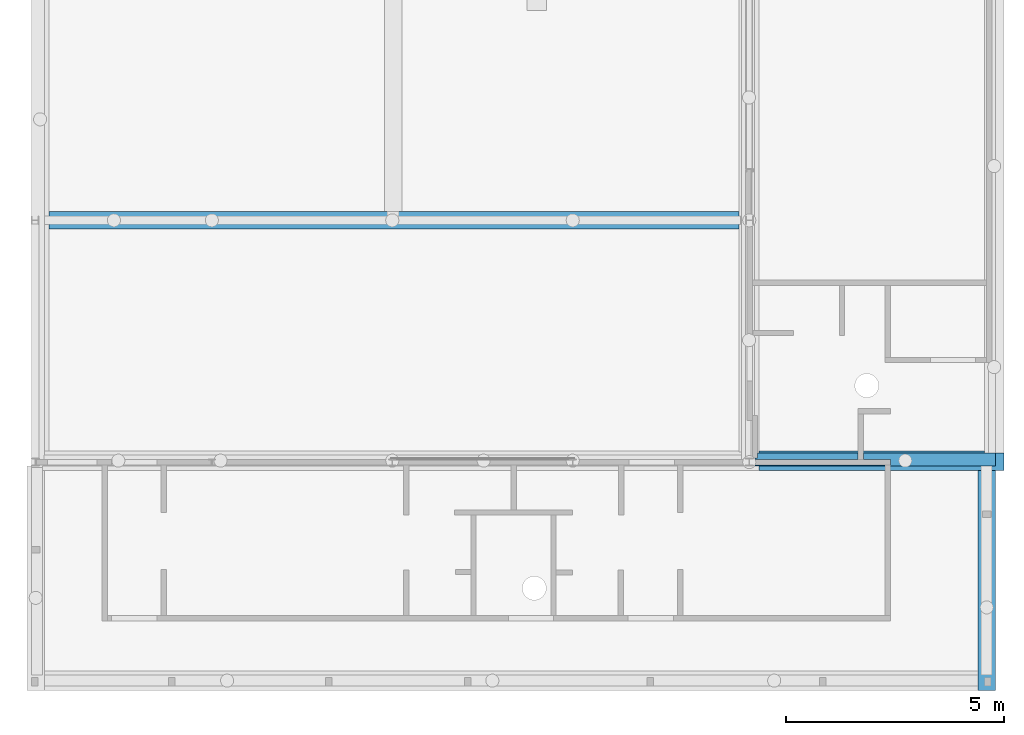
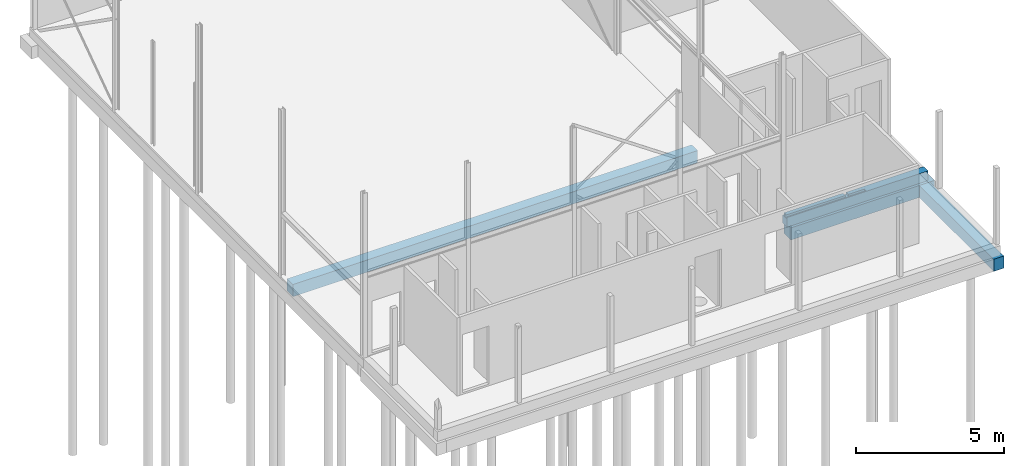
# One storey, part 13 of 17: 4 footings.
"""IFC2X3 building model written with IfcOpenShell, lengths in millimetres."""

from ifc_helpers import new_model, entity, si_unit, converted_unit, derived_unit, direction, frame, origin, place, context, subcontext, project, spatial, faceted_brep, source, transform, mapped, material, type_object, type_shapes, element, save


model = new_model("IFC2X3")

# Units and contexts
model_context = context("Model", 3, precision=0.01, world=origin(), true_north=direction((6.123031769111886e-17, 1.0)))
plan_context = context("Plan", 3, precision=0.01, world=origin(), true_north=direction((6.123031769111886e-17, 1.0)))
body_context = subcontext(model_context, "Body", "Model", "MODEL_VIEW")
ifc_project = project(units=[si_unit("LENGTHUNIT", "METRE", prefix="MILLI"), si_unit("AREAUNIT", "SQUARE_METRE"), si_unit("VOLUMEUNIT", "CUBIC_METRE"), converted_unit("PLANEANGLEUNIT", "DEGREE", entity("IfcPlaneAngleMeasure", 0.017453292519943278), si_unit("PLANEANGLEUNIT", "RADIAN"), dimensions=[0, 0, 0, 0, 0, 0, 0]), si_unit("MASSUNIT", "GRAM", prefix="KILO"), derived_unit("MASSDENSITYUNIT", [(si_unit("MASSUNIT", "GRAM", prefix="KILO"), 1), (si_unit("LENGTHUNIT", "METRE"), -3)]), derived_unit("IONCONCENTRATIONUNIT", [(si_unit("MASSUNIT", "GRAM", prefix="KILO"), 1), (si_unit("LENGTHUNIT", "METRE"), -3)]), derived_unit("MOMENTOFINERTIAUNIT", [(si_unit("LENGTHUNIT", "METRE"), 4)]), si_unit("TIMEUNIT", "SECOND"), si_unit("FREQUENCYUNIT", "HERTZ"), si_unit("THERMODYNAMICTEMPERATUREUNIT", "DEGREE_CELSIUS"), derived_unit("THERMALTRANSMITTANCEUNIT", [(si_unit("MASSUNIT", "GRAM", prefix="KILO"), 1), (si_unit("THERMODYNAMICTEMPERATUREUNIT", "KELVIN"), -1), (si_unit("TIMEUNIT", "SECOND"), -3)]), derived_unit("THERMALCONDUCTANCEUNIT", [(si_unit("MASSUNIT", "GRAM", prefix="KILO"), 1), (si_unit("THERMODYNAMICTEMPERATUREUNIT", "KELVIN"), -1), (si_unit("TIMEUNIT", "SECOND"), -3), (si_unit("LENGTHUNIT", "METRE"), 1)]), derived_unit("VOLUMETRICFLOWRATEUNIT", [(si_unit("LENGTHUNIT", "METRE", prefix="DECI"), 3), (si_unit("TIMEUNIT", "SECOND"), -1)]), derived_unit("MASSFLOWRATEUNIT", [(si_unit("MASSUNIT", "GRAM", prefix="KILO"), 1), (si_unit("TIMEUNIT", "SECOND"), -1)]), derived_unit("ROTATIONALFREQUENCYUNIT", [(si_unit("TIMEUNIT", "SECOND"), -1)]), si_unit("ELECTRICCURRENTUNIT", "AMPERE"), si_unit("ELECTRICVOLTAGEUNIT", "VOLT"), si_unit("POWERUNIT", "WATT"), si_unit("FORCEUNIT", "NEWTON", prefix="KILO"), si_unit("ILLUMINANCEUNIT", "LUX"), si_unit("LUMINOUSFLUXUNIT", "LUMEN"), si_unit("LUMINOUSINTENSITYUNIT", "CANDELA"), si_unit("ENERGYUNIT", "JOULE"), derived_unit("USERDEFINED", [(si_unit("MASSUNIT", "GRAM", prefix="KILO"), -1), (si_unit("LENGTHUNIT", "METRE"), -2), (si_unit("TIMEUNIT", "SECOND"), 3), (si_unit("LUMINOUSFLUXUNIT", "LUMEN"), 1)]), derived_unit("USERDEFINED", [(si_unit("MASSUNIT", "GRAM", prefix="KILO"), 1), (si_unit("TIMEUNIT", "SECOND"), -3), (si_unit("LENGTHUNIT", "METRE"), 3), (si_unit("ELECTRICCURRENTUNIT", "AMPERE"), -2)]), derived_unit("SOUNDPOWERUNIT", [(si_unit("MASSUNIT", "GRAM", prefix="KILO"), 1), (si_unit("TIMEUNIT", "SECOND"), -3), (si_unit("LENGTHUNIT", "METRE"), 2)]), derived_unit("SOUNDPRESSUREUNIT", [(si_unit("MASSUNIT", "GRAM", prefix="KILO"), 1), (si_unit("LENGTHUNIT", "METRE"), -1), (si_unit("TIMEUNIT", "SECOND"), -2)]), derived_unit("LINEARVELOCITYUNIT", [(si_unit("LENGTHUNIT", "METRE"), 1), (si_unit("TIMEUNIT", "SECOND"), -1)]), si_unit("PRESSUREUNIT", "PASCAL"), derived_unit("USERDEFINED", [(si_unit("MASSUNIT", "GRAM", prefix="KILO"), 1), (si_unit("LENGTHUNIT", "METRE"), -2), (si_unit("TIMEUNIT", "SECOND"), -2)]), derived_unit("LINEARFORCEUNIT", [(si_unit("MASSUNIT", "GRAM", prefix="KILO"), 1), (si_unit("TIMEUNIT", "SECOND"), -2)]), derived_unit("PLANARFORCEUNIT", [(si_unit("MASSUNIT", "GRAM", prefix="KILO"), 1), (si_unit("LENGTHUNIT", "METRE"), -1), (si_unit("TIMEUNIT", "SECOND"), -2)]), derived_unit("SPECIFICHEATCAPACITYUNIT", [(si_unit("THERMODYNAMICTEMPERATUREUNIT", "KELVIN"), -1), (si_unit("LENGTHUNIT", "METRE"), 2), (si_unit("TIMEUNIT", "SECOND"), -2)]), derived_unit("HEATFLUXDENSITYUNIT", [(si_unit("MASSUNIT", "GRAM", prefix="KILO"), 1), (si_unit("TIMEUNIT", "SECOND"), -3)]), derived_unit("HEATINGVALUEUNIT", [(si_unit("LENGTHUNIT", "METRE"), 2), (si_unit("TIMEUNIT", "SECOND"), -2)]), derived_unit("VAPORPERMEABILITYUNIT", [(si_unit("LENGTHUNIT", "METRE"), -1), (si_unit("TIMEUNIT", "SECOND"), 1)]), derived_unit("DYNAMICVISCOSITYUNIT", [(si_unit("MASSUNIT", "GRAM", prefix="KILO"), 1), (si_unit("TIMEUNIT", "SECOND"), -1), (si_unit("LENGTHUNIT", "METRE"), -1)]), derived_unit("THERMALEXPANSIONCOEFFICIENTUNIT", [(si_unit("THERMODYNAMICTEMPERATUREUNIT", "KELVIN"), -1)]), derived_unit("MODULUSOFELASTICITYUNIT", [(si_unit("MASSUNIT", "GRAM", prefix="KILO"), 1), (si_unit("LENGTHUNIT", "METRE"), -1), (si_unit("TIMEUNIT", "SECOND"), -2)]), derived_unit("ISOTHERMALMOISTURECAPACITYUNIT", [(si_unit("MASSUNIT", "GRAM", prefix="KILO"), -1), (si_unit("LENGTHUNIT", "METRE"), 3)]), derived_unit("MOISTUREDIFFUSIVITYUNIT", [(si_unit("TIMEUNIT", "SECOND"), -1), (si_unit("LENGTHUNIT", "METRE"), 2)]), derived_unit("MASSPERLENGTHUNIT", [(si_unit("MASSUNIT", "GRAM", prefix="KILO"), 1), (si_unit("LENGTHUNIT", "METRE"), -1)]), derived_unit("THERMALRESISTANCEUNIT", [(si_unit("MASSUNIT", "GRAM", prefix="KILO"), -1), (si_unit("TIMEUNIT", "SECOND"), 3), (si_unit("THERMODYNAMICTEMPERATUREUNIT", "KELVIN"), 1)]), derived_unit("ACCELERATIONUNIT", [(si_unit("LENGTHUNIT", "METRE"), 1), (si_unit("TIMEUNIT", "SECOND"), -2)]), derived_unit("ANGULARVELOCITYUNIT", [(si_unit("TIMEUNIT", "SECOND"), -1), (si_unit("PLANEANGLEUNIT", "RADIAN"), 1)]), derived_unit("LINEARSTIFFNESSUNIT", [(si_unit("MASSUNIT", "GRAM", prefix="KILO"), 1), (si_unit("TIMEUNIT", "SECOND"), -2)]), derived_unit("WARPINGCONSTANTUNIT", [(si_unit("LENGTHUNIT", "METRE"), 6)]), derived_unit("LINEARMOMENTUNIT", [(si_unit("MASSUNIT", "GRAM", prefix="KILO"), 1), (si_unit("LENGTHUNIT", "METRE"), 1), (si_unit("TIMEUNIT", "SECOND"), -2)]), derived_unit("TORQUEUNIT", [(si_unit("MASSUNIT", "GRAM", prefix="KILO"), 1), (si_unit("LENGTHUNIT", "METRE"), 2), (si_unit("TIMEUNIT", "SECOND"), -2)])], contexts=[model_context, plan_context])

# Site, building, storey
site_placement = place(None, origin())
site = spatial("IfcSite", under=ifc_project, at=site_placement, Name="Default", CompositionType="ELEMENT")
building_placement = place(site_placement, origin())
building = spatial("IfcBuilding", under=site, at=building_placement, CompositionType="ELEMENT")
storey_placement = place(building_placement, origin())
storey = spatial("IfcBuildingStorey", under=building, at=storey_placement, Name="00 begane grond", CompositionType="ELEMENT", Elevation=0.0)

# Footings
ifc_material = material(Name="ihwg beton")
type_product_1 = type_object("IfcTypeProduct", Name="16_SF_LIB_funderingsbalk_dw:400x500 (ihwg)", material=ifc_material)
shared_shape_1 = source(origin(), body_context, "Body", "Brep", [
    faceted_brep([(400.0, 0.0, -500.0), (400.0, 0.0, 0.0), (0.0, 0.0, 0.0), (0.0, 0.0, -500.0), (0.0, 5035.00000000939, -500.0), (0.0, 5035.00000000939, 0.0), (400.0, 5035.000000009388, 0.0), (400.0, 5035.000000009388, -500.0), (0.0, 450.00000001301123, 0.0), (0.0, 450.00000001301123, -500.0), (55.11112605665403, 1861.177143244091, -500.0), (70.09618943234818, 1825.0000000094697, -500.0), (50.0, 1900.0000000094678, -500.0), (93.93398282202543, 1793.933982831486, -500.0), (125.0, 1770.0961894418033, -500.0), (161.1771432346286, 1755.1111260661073, -500.0), (200.0, 1750.0000000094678, -500.0), (238.82285676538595, 1755.1111260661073, -500.0), (275.0, 1770.0961894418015, -500.0), (306.0660171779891, 1793.9339828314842, -500.0), (329.9038105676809, 1825.0000000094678, -500.0), (344.8888739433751, 1861.1771432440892, -500.0), (350.0, 1900.0000000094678, -500.0), (344.8888739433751, 1938.8228567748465, -500.0), (329.9038105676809, 1975.0000000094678, -500.0), (306.0660171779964, 2006.0660171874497, -500.0), (275.0, 2029.9038105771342, -500.0), (238.82285676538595, 2044.8888739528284, -500.0), (200.0, 2050.000000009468, -500.0), (161.17714323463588, 2044.8888739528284, -500.0), (125.0, 2029.9038105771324, -500.0), (93.93398282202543, 2006.0660171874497, -500.0), (70.09618943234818, 1975.0000000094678, -500.0), (55.11112605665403, 1938.8228567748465, -500.0), (275.0, 1770.0961894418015, -480.0), (238.82285676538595, 1755.1111260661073, -480.0), (200.0, 1750.0000000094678, -480.0), (161.17714323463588, 1755.1111260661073, -480.0), (125.0, 1770.0961894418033, -480.0), (93.93398282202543, 1793.933982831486, -480.0), (70.09618943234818, 1825.0000000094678, -480.0), (55.11112605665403, 1861.177143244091, -480.0), (50.0, 1900.0000000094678, -480.0), (55.11112605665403, 1938.8228567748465, -480.0), (70.09618943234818, 1975.0000000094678, -480.0), (93.93398282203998, 2006.0660171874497, -480.0), (125.0, 2029.9038105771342, -480.0), (161.17714323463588, 2044.8888739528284, -480.0), (200.0, 2050.000000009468, -480.0), (238.82285676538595, 2044.8888739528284, -480.0), (275.0, 2029.9038105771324, -480.0), (306.0660171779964, 2006.0660171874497, -480.0), (329.9038105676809, 1975.0000000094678, -480.0), (344.8888739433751, 1938.8228567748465, -480.0), (350.0, 1900.0000000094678, -480.0), (344.8888739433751, 1861.1771432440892, -480.0), (329.9038105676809, 1825.0000000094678, -480.0), (306.0660171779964, 1793.9339828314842, -480.0)], [[[0, 1, 2, 3]], [[4, 5, 6, 7]], [[8, 2, 1, 6, 5]], [[9, 3, 2, 8, 5, 4]], [[10, 11, 9]], [[12, 10, 9]], [[9, 11, 13]], [[9, 13, 14]], [[9, 14, 15]], [[9, 15, 16]], [[17, 9, 16]], [[18, 9, 17]], [[9, 18, 19]], [[0, 9, 19]], [[20, 0, 19]], [[0, 20, 21]], [[21, 22, 0]], [[7, 0, 22]], [[7, 22, 23]], [[23, 24, 7]], [[25, 7, 24]], [[7, 25, 26]], [[27, 7, 26]], [[7, 27, 28]], [[4, 7, 28]], [[28, 29, 4]], [[4, 29, 30]], [[4, 30, 31]], [[4, 31, 32]], [[32, 33, 4]], [[33, 12, 4]], [[9, 4, 12]], [[0, 3, 9]], [[1, 0, 7, 6]], [[34, 35, 36, 37, 38, 39, 40, 41, 42, 43, 44, 45, 46, 47, 48, 49, 50, 51, 52, 53, 54, 55, 56, 57]], [[12, 42, 41, 10]], [[10, 41, 40, 11]], [[14, 13, 39, 38]], [[13, 11, 40, 39]], [[37, 15, 14, 38]], [[15, 37, 36, 16]], [[18, 17, 35, 34]], [[18, 34, 57, 19]], [[21, 20, 56, 55]], [[56, 20, 19, 57]], [[54, 22, 21, 55]], [[16, 36, 35, 17]], [[22, 54, 53, 23]], [[23, 53, 52, 24]], [[26, 25, 51, 50]], [[24, 52, 51, 25]], [[26, 50, 49, 27]], [[27, 49, 48, 28]], [[29, 28, 48, 47]], [[29, 47, 46, 30]], [[32, 31, 45, 44]], [[30, 46, 45, 31]], [[32, 44, 43, 33]], [[12, 33, 43, 42]]]),
])
type_shapes(type_product_1, [shared_shape_1])
footing_1_placement = place(storey_placement, frame((55731.192937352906, 11112.670340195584, -470.0)))
element("IfcFooting", 1, at=footing_1_placement, inside=storey, type_object=type_product_1, material=ifc_material, Name="16_SF_LIB_funderingsbalk_dw:400x500 (ihwg)", ObjectType="16_SF_LIB_funderingsbalk_dw:400x500 (ihwg)", context=body_context, shape_type="MappedRepresentation", body=[
    mapped(shared_shape_1, transform((0.0, 0.0, 0.0), scale=1.0)),
])
type_product_2 = type_object("IfcTypeProduct", Name="16_SF_LIB_funderingsbalk_dw:400x500 (ihwg)", material=ifc_material)
shared_shape_2 = source(origin(), body_context, "Body", "Brep", [
    faceted_brep([(0.0, 0.0, -500.0), (0.0, 0.0, 0.0), (0.0, 400.0, 0.0), (0.0, 400.0, -500.0), (8078.955664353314, 400.0, 0.0), (7678.9556643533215, 400.0, 0.0), (15800.0, 0.0, 0.0), (15800.0, 400.0, 0.0), (7678.9556643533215, 400.0, -500.0), (15800.0, 400.0, -500.0), (8078.955664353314, 400.0, -500.0), (1490.0, 350.0, -500.0), (1451.177143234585, 344.8888739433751, -500.0), (3729.999999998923, 350.0, -500.0), (3691.1771432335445, 344.8888739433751, -500.0), (1528.8228567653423, 344.8888739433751, -500.0), (1415.0, 329.9038105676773, -500.0), (1383.9339828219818, 306.0660171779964, -500.0), (1360.0961894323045, 275.0, -500.0), (1345.111126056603, 238.82285676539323, -500.0), (1340.0, 200.0, -500.0), (1345.111126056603, 161.17714323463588, -500.0), (1360.0961894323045, 125.0, -500.0), (1383.9339828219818, 93.9339828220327, -500.0), (1415.0, 70.09618943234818, -500.0), (1451.177143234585, 55.11112605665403, -500.0), (1490.0, 50.0, -500.0), (3729.999999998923, 50.0, -500.0), (3691.1771432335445, 55.11112605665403, -500.0), (1528.8228567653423, 55.11112605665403, -500.0), (3654.999999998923, 70.09618943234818, -500.0), (1565.0, 70.09618943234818, -500.0), (3623.9339828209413, 93.9339828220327, -500.0), (1596.0660171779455, 93.9339828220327, -500.0), (3600.096189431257, 125.0, -500.0), (1619.90381056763, 125.0, -500.0), (3585.1111260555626, 161.17714323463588, -500.0), (1634.8888739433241, 161.17714323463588, -500.0), (3579.999999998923, 200.0, -500.0), (1640.0, 200.0, -500.0), (1634.8888739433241, 238.82285676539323, -500.0), (3585.1111260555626, 238.82285676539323, -500.0), (1619.90381056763, 275.0, -500.0), (3600.096189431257, 275.0, -500.0), (1596.0660171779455, 306.0660171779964, -500.0), (3623.9339828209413, 306.0660171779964, -500.0), (1565.0, 329.9038105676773, -500.0), (3654.999999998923, 329.9038105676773, -500.0), (7860.00000000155, 50.0, -500.0), (7821.177143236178, 55.11112605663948, -500.0), (3768.822856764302, 55.11112605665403, -500.0), (7785.00000000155, 70.09618943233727, -500.0), (3804.999999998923, 70.09618943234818, -500.0), (7753.933982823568, 93.93398282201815, -500.0), (3836.066017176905, 93.9339828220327, -500.0), (7730.096189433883, 125.0, -500.0), (3859.9038105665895, 125.0, -500.0), (7715.111126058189, 161.17714323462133, -500.0), (3874.8888739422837, 161.17714323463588, -500.0), (7710.00000000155, 200.0, -500.0), (3879.999999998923, 200.0, -500.0), (3874.8888739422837, 238.82285676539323, -500.0), (3859.9038105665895, 275.0, -500.0), (3836.066017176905, 306.0660171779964, -500.0), (3804.999999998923, 329.9038105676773, -500.0), (3768.822856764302, 344.8888739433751, -500.0), (7715.111126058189, 238.82285676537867, -500.0), (7730.096189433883, 275.0, -500.0), (7753.933982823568, 306.06601717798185, -500.0), (7785.00000000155, 329.90381056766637, -500.0), (7821.177143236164, 344.8888739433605, -500.0), (7860.00000000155, 350.0, -500.0), (7898.822856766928, 344.8888739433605, -500.0), (7935.00000000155, 329.90381056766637, -500.0), (7966.066017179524, 306.06601717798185, -500.0), (7989.903810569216, 275.0, -500.0), (8004.88887394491, 238.82285676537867, -500.0), (8010.00000000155, 200.0, -500.0), (8004.88887394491, 161.17714323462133, -500.0), (11845.11112605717, 161.1771432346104, -500.0), (11840.0, 200.0, -500.0), (11845.11112605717, 238.82285676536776, -500.0), (11860.096189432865, 275.0, -500.0), (11883.93398282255, 306.06601717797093, -500.0), (11915.0, 329.9038105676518, -500.0), (11951.177143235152, 344.8888739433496, -500.0), (11990.0, 350.0, -500.0), (12028.82285676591, 344.8888739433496, -500.0), (12065.0, 329.9038105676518, -500.0), (12096.066017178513, 306.06601717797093, -500.0), (12119.903810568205, 275.0, -500.0), (12134.888873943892, 238.82285676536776, -500.0), (12140.0, 200.0, -500.0), (15800.0, 0.0, -500.0), (12134.888873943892, 161.1771432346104, -500.0), (12119.903810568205, 125.0, -500.0), (11990.0, 50.0, -500.0), (12028.82285676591, 55.111126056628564, -500.0), (12065.0, 70.09618943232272, -500.0), (12096.06601717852, 93.93398282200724, -500.0), (7989.903810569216, 125.0, -500.0), (11860.096189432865, 125.0, -500.0), (7966.066017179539, 93.93398282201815, -500.0), (11883.93398282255, 93.93398282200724, -500.0), (7935.00000000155, 70.09618943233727, -500.0), (11915.0, 70.09618943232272, -500.0), (7898.822856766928, 55.11112605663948, -500.0), (11951.17714323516, 55.111126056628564, -500.0), (3804.999999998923, 70.09618943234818, -480.0), (3768.822856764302, 55.11112605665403, -480.0), (3729.999999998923, 50.0, -480.0), (3691.1771432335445, 55.11112605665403, -480.0), (3654.999999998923, 70.09618943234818, -480.0), (3623.9339828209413, 93.9339828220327, -480.0), (3600.096189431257, 125.0, -480.0), (3585.1111260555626, 161.17714323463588, -480.0), (3579.999999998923, 200.0, -480.0), (3585.1111260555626, 238.82285676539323, -480.0), (3600.096189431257, 275.0, -480.0), (3623.9339828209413, 306.0660171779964, -480.0), (3654.999999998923, 329.9038105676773, -480.0), (3691.1771432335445, 344.8888739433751, -480.0), (3729.999999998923, 350.0, -480.0), (3768.822856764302, 344.8888739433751, -480.0), (3804.999999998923, 329.9038105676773, -480.0), (3836.066017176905, 306.0660171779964, -480.0), (3859.9038105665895, 275.0, -480.0), (3874.8888739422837, 238.82285676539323, -480.0), (3879.999999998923, 200.0, -480.0), (3874.8888739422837, 161.17714323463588, -480.0), (3859.9038105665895, 125.0, -480.0), (3836.066017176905, 93.9339828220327, -480.0), (7935.00000000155, 70.09618943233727, -480.0), (7898.822856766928, 55.11112605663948, -480.0), (7860.00000000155, 50.0, -480.0), (7821.177143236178, 55.11112605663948, -480.0), (7785.00000000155, 70.09618943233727, -480.0), (7753.933982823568, 93.93398282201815, -480.0), (7730.096189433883, 125.0, -480.0), (7715.111126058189, 161.17714323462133, -480.0), (7710.00000000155, 200.0, -480.0), (7715.111126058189, 238.82285676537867, -480.0), (7730.096189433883, 275.0, -480.0), (7753.933982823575, 306.06601717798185, -480.0), (7785.00000000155, 329.90381056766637, -480.0), (7821.177143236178, 344.8888739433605, -480.0), (7860.00000000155, 350.0, -480.0), (7898.822856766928, 344.8888739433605, -480.0), (7935.00000000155, 329.90381056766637, -480.0), (7966.066017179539, 306.06601717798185, -480.0), (7989.903810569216, 275.0, -480.0), (8004.88887394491, 238.82285676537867, -480.0), (8010.00000000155, 200.0, -480.0), (8004.88887394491, 161.17714323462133, -480.0), (7989.903810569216, 125.0, -480.0), (7966.066017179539, 93.93398282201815, -480.0), (12065.0, 70.09618943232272, -480.0), (12028.82285676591, 55.111126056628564, -480.0), (11990.0, 50.0, -480.0), (11951.17714323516, 55.111126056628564, -480.0), (11915.0, 70.09618943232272, -480.0), (11883.93398282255, 93.93398282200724, -480.0), (11860.096189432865, 125.0, -480.0), (11845.11112605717, 161.1771432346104, -480.0), (11840.0, 200.0, -480.0), (11845.11112605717, 238.82285676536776, -480.0), (11860.096189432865, 275.0, -480.0), (11883.933982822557, 306.06601717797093, -480.0), (11915.0, 329.9038105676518, -480.0), (11951.17714323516, 344.8888739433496, -480.0), (11990.0, 350.0, -480.0), (12028.82285676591, 344.8888739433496, -480.0), (12065.0, 329.9038105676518, -480.0), (12096.06601717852, 306.06601717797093, -480.0), (12119.903810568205, 275.0, -480.0), (12134.888873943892, 238.82285676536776, -480.0), (12140.0, 200.0, -480.0), (12134.888873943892, 161.1771432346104, -480.0), (12119.903810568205, 125.0, -480.0), (12096.06601717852, 93.93398282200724, -480.0), (1565.0, 70.09618943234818, -480.0), (1528.8228567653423, 55.11112605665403, -480.0), (1490.0, 50.0, -480.0), (1451.177143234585, 55.11112605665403, -480.0), (1415.0, 70.09618943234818, -480.0), (1383.9339828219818, 93.9339828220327, -480.0), (1360.0961894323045, 125.0, -480.0), (1345.111126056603, 161.17714323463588, -480.0), (1340.0, 200.0, -480.0), (1345.111126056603, 238.82285676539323, -480.0), (1360.0961894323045, 275.0, -480.0), (1383.9339828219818, 306.0660171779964, -480.0), (1415.0, 329.9038105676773, -480.0), (1451.177143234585, 344.8888739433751, -480.0), (1490.0, 350.0, -480.0), (1528.8228567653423, 344.8888739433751, -480.0), (1565.0, 329.9038105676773, -480.0), (1596.0660171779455, 306.0660171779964, -480.0), (1619.90381056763, 275.0, -480.0), (1634.8888739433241, 238.82285676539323, -480.0), (1640.0, 200.0, -480.0), (1634.8888739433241, 161.17714323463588, -480.0), (1619.90381056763, 125.0, -480.0), (1596.0660171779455, 93.9339828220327, -480.0)], [[[0, 1, 2, 3]], [[4, 5, 2, 1, 6, 7]], [[8, 3, 2, 5, 4, 7, 9, 10]], [[11, 12, 3]], [[13, 11, 3]], [[11, 13, 14]], [[14, 15, 11]], [[16, 3, 12]], [[16, 17, 3]], [[3, 17, 18]], [[19, 3, 18]], [[19, 20, 3]], [[0, 3, 20]], [[21, 0, 20]], [[0, 21, 22]], [[0, 22, 23]], [[0, 23, 24]], [[24, 25, 0]], [[26, 0, 25]], [[27, 0, 26]], [[28, 27, 26]], [[28, 26, 29]], [[30, 28, 29]], [[29, 31, 30]], [[30, 31, 32]], [[31, 33, 32]], [[34, 32, 33]], [[35, 34, 33]], [[34, 35, 36]], [[36, 35, 37]], [[37, 38, 36]], [[38, 37, 39]], [[40, 38, 39]], [[40, 41, 38]], [[41, 40, 42]], [[41, 42, 43]], [[43, 42, 44]], [[44, 45, 43]], [[46, 45, 44]], [[46, 47, 45]], [[47, 46, 15]], [[47, 15, 14]], [[27, 48, 0]], [[49, 48, 27]], [[49, 27, 50]], [[49, 50, 51]], [[51, 50, 52]], [[53, 51, 52]], [[53, 52, 54]], [[54, 55, 53]], [[55, 54, 56]], [[55, 56, 57]], [[56, 58, 57]], [[57, 58, 59]], [[59, 58, 60]], [[59, 60, 8]], [[8, 60, 61]], [[8, 61, 62]], [[8, 62, 63]], [[63, 64, 8]], [[8, 64, 65]], [[13, 8, 65]], [[3, 8, 13]], [[8, 66, 59]], [[66, 8, 67]], [[8, 68, 67]], [[68, 8, 69]], [[69, 8, 70]], [[70, 8, 71]], [[10, 71, 8]], [[72, 71, 10]], [[10, 73, 72]], [[10, 74, 73]], [[75, 74, 10]], [[76, 75, 10]], [[77, 76, 10]], [[77, 10, 78]], [[79, 78, 10]], [[79, 10, 80]], [[81, 80, 10]], [[81, 10, 82]], [[83, 82, 10]], [[83, 10, 84]], [[10, 85, 84]], [[85, 10, 86]], [[10, 9, 86]], [[87, 86, 9]], [[88, 87, 9]], [[9, 89, 88]], [[90, 89, 9]], [[9, 91, 90]], [[92, 91, 9]], [[9, 93, 92]], [[93, 94, 92]], [[93, 95, 94]], [[93, 48, 96]], [[96, 97, 93]], [[98, 93, 97]], [[93, 98, 99]], [[95, 93, 99]], [[93, 0, 48]], [[100, 78, 79]], [[79, 101, 100]], [[101, 102, 100]], [[103, 102, 101]], [[103, 104, 102]], [[104, 103, 105]], [[106, 104, 105]], [[107, 106, 105]], [[48, 106, 107]], [[48, 107, 96]], [[6, 1, 0, 93]], [[7, 6, 93, 9]], [[108, 109, 110, 111, 112, 113, 114, 115, 116, 117, 118, 119, 120, 121, 122, 123, 124, 125, 126, 127, 128, 129, 130, 131]], [[132, 133, 134, 135, 136, 137, 138, 139, 140, 141, 142, 143, 144, 145, 146, 147, 148, 149, 150, 151, 152, 153, 154, 155]], [[156, 157, 158, 159, 160, 161, 162, 163, 164, 165, 166, 167, 168, 169, 170, 171, 172, 173, 174, 175, 176, 177, 178, 179]], [[180, 181, 182, 183, 184, 185, 186, 187, 188, 189, 190, 191, 192, 193, 194, 195, 196, 197, 198, 199, 200, 201, 202, 203]], [[38, 116, 115, 36]], [[36, 115, 114, 34]], [[30, 32, 113, 112]], [[32, 34, 114, 113]], [[111, 28, 30, 112]], [[28, 111, 110, 27]], [[52, 50, 109, 108]], [[52, 108, 131, 54]], [[58, 56, 130, 129]], [[130, 56, 54, 131]], [[128, 60, 58, 129]], [[27, 110, 109, 50]], [[60, 128, 127, 61]], [[61, 127, 126, 62]], [[64, 63, 125, 124]], [[62, 126, 125, 63]], [[64, 124, 123, 65]], [[65, 123, 122, 13]], [[14, 13, 122, 121]], [[14, 121, 120, 47]], [[43, 45, 119, 118]], [[47, 120, 119, 45]], [[43, 118, 117, 41]], [[38, 41, 117, 116]], [[59, 140, 139, 57]], [[57, 139, 138, 55]], [[51, 53, 137, 136]], [[53, 55, 138, 137]], [[135, 49, 51, 136]], [[49, 135, 134, 48]], [[104, 106, 133, 132]], [[104, 132, 155, 102]], [[78, 100, 154, 153]], [[154, 100, 102, 155]], [[152, 77, 78, 153]], [[48, 134, 133, 106]], [[77, 152, 151, 76]], [[76, 151, 150, 75]], [[73, 74, 149, 148]], [[75, 150, 149, 74]], [[73, 148, 147, 72]], [[72, 147, 146, 71]], [[70, 71, 146, 145]], [[70, 145, 144, 69]], [[67, 68, 143, 142]], [[69, 144, 143, 68]], [[67, 142, 141, 66]], [[59, 66, 141, 140]], [[80, 164, 163, 79]], [[79, 163, 162, 101]], [[105, 103, 161, 160]], [[103, 101, 162, 161]], [[159, 107, 105, 160]], [[107, 159, 158, 96]], [[98, 97, 157, 156]], [[98, 156, 179, 99]], [[94, 95, 178, 177]], [[178, 95, 99, 179]], [[176, 92, 94, 177]], [[96, 158, 157, 97]], [[92, 176, 175, 91]], [[91, 175, 174, 90]], [[88, 89, 173, 172]], [[90, 174, 173, 89]], [[88, 172, 171, 87]], [[87, 171, 170, 86]], [[85, 86, 170, 169]], [[85, 169, 168, 84]], [[82, 83, 167, 166]], [[84, 168, 167, 83]], [[82, 166, 165, 81]], [[80, 81, 165, 164]], [[20, 188, 187, 21]], [[21, 187, 186, 22]], [[24, 23, 185, 184]], [[23, 22, 186, 185]], [[183, 25, 24, 184]], [[25, 183, 182, 26]], [[31, 29, 181, 180]], [[31, 180, 203, 33]], [[37, 35, 202, 201]], [[202, 35, 33, 203]], [[200, 39, 37, 201]], [[26, 182, 181, 29]], [[39, 200, 199, 40]], [[40, 199, 198, 42]], [[46, 44, 197, 196]], [[42, 198, 197, 44]], [[46, 196, 195, 15]], [[15, 195, 194, 11]], [[12, 11, 194, 193]], [[12, 193, 192, 16]], [[18, 17, 191, 190]], [[16, 192, 191, 17]], [[18, 190, 189, 19]], [[20, 19, 189, 188]]]),
])
type_shapes(type_product_2, [shared_shape_2])
footing_2_placement = place(storey_placement, frame((34466.19293735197, 21672.670340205, -470.0)))
element("IfcFooting", 2, at=footing_2_placement, inside=storey, type_object=type_product_2, material=ifc_material, Name="16_SF_LIB_funderingsbalk_dw:400x500 (ihwg)", ObjectType="16_SF_LIB_funderingsbalk_dw:400x500 (ihwg)", context=body_context, shape_type="MappedRepresentation", body=[
    mapped(shared_shape_2, transform((0.0, 0.0, 0.0), scale=1.0)),
])
type_product_3 = type_object("IfcTypeProduct", Name="16_SF_LIB_funderingsbalk_dw:450x500 (ihwg)", material=ifc_material)
shared_shape_3 = source(origin(), body_context, "Body", "Brep", [
    faceted_brep([(0.0, 0.0, -500.0), (0.0, 0.0, 0.0), (0.0, 425.0, 0.0), (0.0, 450.0, 0.0), (0.0, 450.0, -500.0), (0.0, 425.0, -500.0), (5610.0, 400.0, -500.0), (5610.0, 400.0, 0.0), (5610.0, 0.0, 0.0), (5610.0, 0.0, -500.0), (5160.0, 450.0, 0.0), (5015.0, 0.0, 0.0), (5415.0, 0.0, 0.0), (5410.0, 400.0, 0.0), (5160.0, 400.0, 0.0), (5160.0, 450.0, -500.0), (3275.0, 354.90381056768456, -500.0), (3311.1771432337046, 369.8888739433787, -500.0), (3243.9339828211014, 331.06601717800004, -500.0), (3220.096189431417, 300.0, -500.0), (3205.11112605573, 263.82285676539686, -500.0), (3200.0, 225.0, -500.0), (3205.11112605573, 186.17714323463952, -500.0), (3220.096189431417, 150.0, -500.0), (3243.9339828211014, 118.93398282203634, -500.0), (3275.0, 95.09618943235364, -500.0), (3311.177143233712, 80.11112605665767, -500.0), (3350.0, 75.0, -500.0), (5015.0, 0.0, -500.0), (3388.822856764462, 80.11112605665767, -500.0), (3425.0, 95.09618943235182, -500.0), (3456.0660171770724, 118.93398282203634, -500.0), (3479.903810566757, 150.0, -500.0), (3494.888873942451, 186.17714323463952, -500.0), (3500.0, 225.0, -500.0), (3494.888873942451, 263.82285676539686, -500.0), (3479.903810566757, 300.0, -500.0), (3456.066017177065, 331.0660171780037, -500.0), (3425.0, 354.90381056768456, -500.0), (3388.822856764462, 369.8888739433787, -500.0), (3350.0, 375.0, -500.0), (5160.0, 400.0, -500.0), (5415.0, 0.0, -500.0), (3425.0, 95.09618943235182, -480.0), (3388.822856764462, 80.11112605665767, -480.0), (3350.0, 75.0, -480.0), (3311.177143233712, 80.11112605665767, -480.0), (3275.0, 95.09618943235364, -480.0), (3243.9339828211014, 118.93398282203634, -480.0), (3220.096189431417, 150.0, -480.0), (3205.11112605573, 186.17714323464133, -480.0), (3200.0, 225.0, -480.0), (3205.11112605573, 263.82285676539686, -480.0), (3220.096189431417, 300.0, -480.0), (3243.9339828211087, 331.06601717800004, -480.0), (3275.0, 354.90381056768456, -480.0), (3311.177143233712, 369.8888739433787, -480.0), (3350.0, 375.0, -480.0), (3388.822856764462, 369.8888739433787, -480.0), (3425.0, 354.90381056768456, -480.0), (3456.0660171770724, 331.06601717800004, -480.0), (3479.903810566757, 300.0, -480.0), (3494.888873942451, 263.82285676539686, -480.0), (3500.0, 225.0, -480.0), (3494.888873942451, 186.17714323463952, -480.0), (3479.903810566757, 150.0, -480.0), (3456.0660171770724, 118.93398282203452, -480.0)], [[[0, 1, 2, 3, 4, 5]], [[6, 7, 8, 9]], [[10, 3, 2, 1, 11, 12, 8, 7, 13, 14]], [[4, 3, 10, 15]], [[16, 4, 17]], [[4, 16, 18]], [[4, 18, 19]], [[4, 19, 20]], [[21, 4, 20]], [[21, 5, 4]], [[0, 5, 21]], [[0, 21, 22]], [[23, 0, 22]], [[0, 23, 24]], [[24, 25, 0]], [[26, 0, 25]], [[0, 26, 27]], [[27, 28, 0]], [[28, 27, 29]], [[28, 29, 30]], [[28, 30, 31]], [[28, 31, 32]], [[33, 28, 32]], [[28, 33, 34]], [[28, 34, 35]], [[15, 28, 35]], [[15, 35, 36]], [[15, 36, 37]], [[15, 37, 38]], [[39, 15, 38]], [[40, 15, 39]], [[4, 40, 17]], [[15, 40, 4]], [[28, 15, 41]], [[41, 42, 28]], [[41, 6, 42]], [[9, 42, 6]], [[1, 0, 28, 42, 9, 8, 12, 11]], [[43, 44, 45, 46, 47, 48, 49, 50, 51, 52, 53, 54, 55, 56, 57, 58, 59, 60, 61, 62, 63, 64, 65, 66]], [[21, 51, 50, 22]], [[22, 50, 49, 23]], [[25, 24, 48, 47]], [[24, 23, 49, 48]], [[46, 26, 25, 47]], [[26, 46, 45, 27]], [[30, 29, 44, 43]], [[30, 43, 66, 31]], [[33, 32, 65, 64]], [[65, 32, 31, 66]], [[63, 34, 33, 64]], [[27, 45, 44, 29]], [[34, 63, 62, 35]], [[35, 62, 61, 36]], [[38, 37, 60, 59]], [[36, 61, 60, 37]], [[38, 59, 58, 39]], [[39, 58, 57, 40]], [[17, 40, 57, 56]], [[17, 56, 55, 16]], [[19, 18, 54, 53]], [[16, 55, 54, 18]], [[19, 53, 52, 20]], [[21, 20, 52, 51]], [[13, 7, 6, 41, 14]], [[10, 14, 41, 15]]]),
])
type_shapes(type_product_3, [shared_shape_3])
footing_3_placement = place(storey_placement, frame((50716.19293735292, 16147.670340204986, -470.0)))
element("IfcFooting", 3, at=footing_3_placement, inside=storey, type_object=type_product_3, material=ifc_material, Name="16_SF_LIB_funderingsbalk_dw:450x500 (ihwg)", ObjectType="16_SF_LIB_funderingsbalk_dw:450x500 (ihwg)", context=body_context, shape_type="MappedRepresentation", body=[
    mapped(shared_shape_3, transform((0.0, 0.0, 0.0), scale=1.0)),
])
type_product_4 = type_object("IfcTypeProduct", Name="16_SF_LIB_funderingsbalk_dw:300x400 (ihwg)", material=ifc_material)
shared_shape_4 = source(origin(), body_context, "Body", "Brep", [
    faceted_brep([(0.0, 300.0, 0.0), (0.0, 0.0, 0.0), (0.0, 0.0, 400.0), (0.0, 25.000151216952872, 400.0), (0.0, 25.000151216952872, 320.0), (0.0, 145.0001512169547, 320.0), (0.0, 145.00015121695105, 400.0), (0.0, 185.0001233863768, 400.0), (0.0, 185.0001233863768, 320.0), (0.0, 300.0, 320.0), (5500.0, 0.0, 400.0), (5500.0, 0.0, 0.0), (5500.0, 300.0, 0.0), (5500.0, 300.0, 400.0), (2360.0, 145.00015121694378, 400.0), (2360.0, 300.0, 400.0), (60.0, 300.0, 400.0), (60.0, 185.0001233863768, 400.0), (5350.0, 300.0, 0.0), (5250.0, 300.0, 0.0), (60.0, 300.0, 320.0), (2360.0, 300.0, 320.0), (2480.0, 300.0, 320.0), (2480.0, 300.0, 400.0), (5350.0, 300.0, 400.0), (5420.0, 0.0, 0.0), (5170.0, 0.0, 0.0), (5420.0, 0.0, 400.0), (5170.0, 0.0, 400.0), (3099.9999999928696, 25.00015121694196, 400.0), (3099.9999999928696, 25.00015121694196, 320.0), (3099.9999999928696, 145.00015121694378, 320.0), (3099.9999999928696, 145.00015121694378, 400.0), (2480.0, 145.00015121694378, 400.0), (2480.0, 145.00015121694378, 320.0), (2360.0, 145.00015121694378, 320.0), (60.0, 185.0001233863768, 320.0)], [[[0, 1, 2, 3, 4, 5, 6, 7, 8, 9]], [[10, 11, 12, 13]], [[6, 14, 15, 16, 17, 7]], [[13, 12, 18, 19, 0, 9, 20, 16, 15, 21, 22, 23, 24]], [[1, 0, 19, 18, 12, 11, 25, 26]], [[2, 1, 26, 25, 11, 10, 27, 28]], [[29, 30, 4, 3]], [[31, 32, 33, 34]], [[30, 31, 34, 22, 21, 35, 5, 4]], [[31, 30, 29, 32]], [[22, 34, 33, 23]], [[35, 21, 15, 14]], [[36, 17, 16, 20]], [[36, 20, 9, 8]], [[17, 36, 8, 7]], [[10, 13, 24, 23, 33, 32, 29, 3, 2, 28, 27]], [[6, 5, 35, 14]]]),
])
type_shapes(type_product_4, [shared_shape_4])
footing_4_placement = place(storey_placement, frame((50626.1929373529, 16247.670340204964, -470.0)))
element("IfcFooting", 4, at=footing_4_placement, inside=storey, type_object=type_product_4, material=ifc_material, Name="16_SF_LIB_funderingsbalk_dw:300x400 (ihwg)", ObjectType="16_SF_LIB_funderingsbalk_dw:300x400 (ihwg)", context=body_context, shape_type="MappedRepresentation", body=[
    mapped(shared_shape_4, transform((0.0, 0.0, 0.0), scale=1.0)),
])

save(model, "model.ifc")
